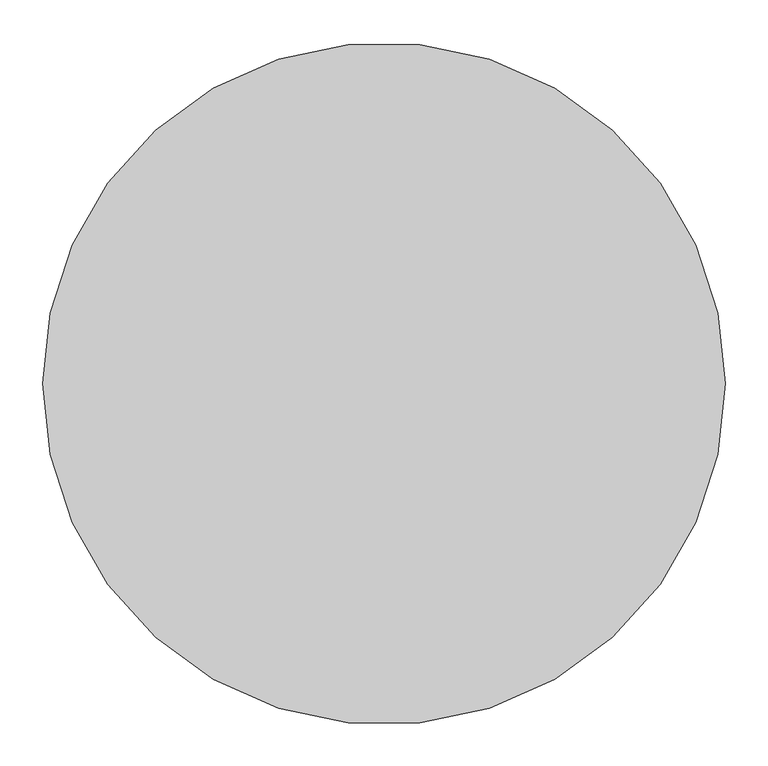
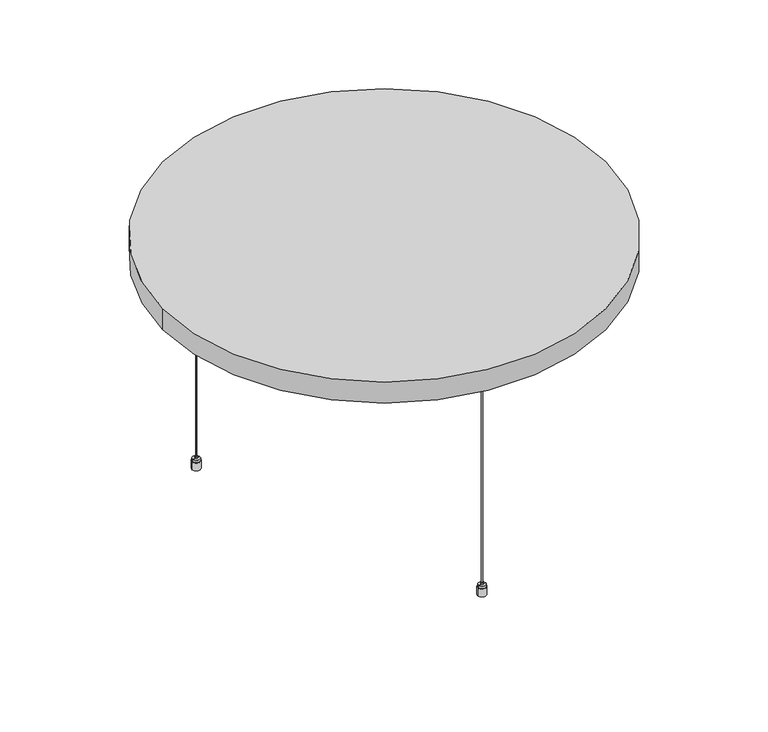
"""IFC4 building model written with IfcOpenShell, lengths in millimetres: proxy geometry, OWA Selecta : Selecta loop 800."""

import ifcopenshell
import ifcopenshell.guid

model = None  # the IFC model being written
_history = None  # IfcOwnerHistory: only IFC2X3 demands one
_inside = {}  # id of a spatial element -> (the spatial element, [elements in it])
_under = {}  # id of a project, library or spatial element -> (it, [spatial elements below it])
_declared = {}  # id of a project -> (the project, [libraries it declares])
_typed = {}  # id of a type object -> (the type object, [elements of that type])
_made_of = {}  # id of a material, layer set ... -> (it, [elements and type objects made of it])


def new_model(schema):
    """Start an empty IFC model of exactly this schema.

    Asked for "IFC4X3", IfcOpenShell would pick the latest addendum, in which some entities
    have other attributes; the version numbers below select the first issue.
    IFC2X3 requires an IfcOwnerHistory on every rooted entity: one is made here for all.
    """
    global model, _history
    if schema == "IFC4X3":
        model = ifcopenshell.file(schema_version=(4, 3, 0, 0))
    else:
        model = ifcopenshell.file(schema=schema)
    _inside.clear()
    _under.clear()
    _declared.clear()
    _typed.clear()
    _made_of.clear()
    _history = None
    if model.schema == "IFC2X3":
        org = make("IfcOrganization", Name="unknown")
        user = make(
            "IfcPersonAndOrganization",
            ThePerson=make("IfcPerson", FamilyName="unknown"),
            TheOrganization=org,
        )
        app = make(
            "IfcApplication",
            ApplicationDeveloper=org,
            Version="unknown",
            ApplicationFullName="unknown",
            ApplicationIdentifier="unknown",
        )
        _history = make(
            "IfcOwnerHistory",
            OwningUser=user,
            OwningApplication=app,
            ChangeAction="ADDED",
            CreationDate=0,
        )
    return model


def make(cls, **values):
    """One entity of the class cls with the attributes given. An attribute that is None is left unset."""
    return model.create_entity(
        cls, **{name: value for name, value in values.items() if value is not None}
    )


def rooted(cls, **values):
    """An entity with a GlobalId (a new one), such as an element, a storey or a relation."""
    return make(cls, GlobalId=ifcopenshell.guid.new(), OwnerHistory=_history, **values)


def si_unit(unit_type, name, prefix=None):
    """IfcSIUnit, for example si_unit("LENGTHUNIT", "METRE", prefix="MILLI")."""
    return make("IfcSIUnit", UnitType=unit_type, Prefix=prefix, Name=name)


def assignment(units):
    """IfcUnitAssignment: the units of a project."""
    return None if units is None else make("IfcUnitAssignment", Units=units)


def point(xyz):
    """IfcCartesianPoint."""
    return None if xyz is None else make("IfcCartesianPoint", Coordinates=xyz)


def direction(xyz):
    """IfcDirection."""
    return None if xyz is None else make("IfcDirection", DirectionRatios=xyz)


def frame(location, z_axis=None, x_axis=None):
    """IfcAxis2Placement3D, a coordinate frame: its origin and axes. An axis left out is left unset."""
    return make(
        "IfcAxis2Placement3D",
        Location=point(location),
        Axis=direction(z_axis),
        RefDirection=direction(x_axis),
    )


def frame_2d(location, x_axis=None):
    """IfcAxis2Placement2D, a coordinate frame in the plane: its origin and x axis."""
    return make(
        "IfcAxis2Placement2D", Location=point(location), RefDirection=direction(x_axis)
    )


def origin():
    """The frame at (0, 0, 0) with its axes left unset."""
    return frame((0.0, 0.0, 0.0))


def place(relative_to, where):
    """IfcLocalPlacement: puts the frame where relative to a parent placement (None: the world)."""
    return make(
        "IfcLocalPlacement", PlacementRelTo=relative_to, RelativePlacement=where
    )


def context(
    kind, dimensions, precision=None, world=None, true_north=None, identifier=None
):
    """IfcGeometricRepresentationContext, for example the 3D "Model" context."""
    return make(
        "IfcGeometricRepresentationContext",
        ContextIdentifier=identifier,
        ContextType=kind,
        CoordinateSpaceDimension=dimensions,
        Precision=precision,
        WorldCoordinateSystem=world,
        TrueNorth=true_north,
    )


def project(units=None, contexts=None):
    """IfcProject with its units and contexts."""
    return rooted(
        "IfcProject",
        Name="project",
        RepresentationContexts=contexts,
        UnitsInContext=assignment(units),
    )


def spatial(cls, under=None, at=None, **own):
    """A site, building, storey or space (cls), placed at a placement, below another one or the project."""
    s = rooted(cls, ObjectPlacement=at, **own)
    if under is not None:
        _under.setdefault(under.id(), (under, []))[1].append(s)
    return s


def polyline(points):
    """IfcPolyline through the points."""
    return make("IfcPolyline", Points=[point(p) for p in points])


def circle_curve(where, radius):
    """IfcCircle in the frame where."""
    return make("IfcCircle", Position=where, Radius=radius)


def trimmed(basis, trim1, trim2, sense, master):
    """IfcTrimmedCurve: the piece of a basis curve between two trims."""
    return make(
        "IfcTrimmedCurve",
        BasisCurve=basis,
        Trim1=trim1,
        Trim2=trim2,
        SenseAgreement=sense,
        MasterRepresentation=master,
    )


def segment(curve, same_sense, transition):
    """IfcCompositeCurveSegment."""
    return make(
        "IfcCompositeCurveSegment",
        Transition=transition,
        SameSense=same_sense,
        ParentCurve=curve,
    )


def composite_curve(segments, self_intersect=None):
    """IfcCompositeCurve: segments joined end to end."""
    return make("IfcCompositeCurve", Segments=segments, SelfIntersect=self_intersect)


def outline(outer, holes=None, kind="AREA"):
    """IfcArbitraryClosedProfileDef: a profile drawn as a closed curve; with holes, ...WithVoids."""
    if holes is None:
        return make("IfcArbitraryClosedProfileDef", ProfileType=kind, OuterCurve=outer)
    return make(
        "IfcArbitraryProfileDefWithVoids",
        ProfileType=kind,
        OuterCurve=outer,
        InnerCurves=holes,
    )


def extrude(swept, where, along, depth):
    """IfcExtrudedAreaSolid: the profile swept, set in the frame where, extruded along a direction by depth."""
    return make(
        "IfcExtrudedAreaSolid",
        SweptArea=swept,
        Position=where,
        ExtrudedDirection=direction(along),
        Depth=depth,
    )


def shape(context_of_items, identifier, shape_type, items):
    """IfcShapeRepresentation: the items that make up one representation, for example the "Body"."""
    return make(
        "IfcShapeRepresentation",
        ContextOfItems=context_of_items,
        RepresentationIdentifier=identifier,
        RepresentationType=shape_type,
        Items=items,
    )


def source(mapping_origin, context_of_items, identifier, shape_type, items):
    """IfcRepresentationMap: a shape defined once, which mapped items show again and again."""
    return make(
        "IfcRepresentationMap",
        MappingOrigin=mapping_origin,
        MappedRepresentation=shape(context_of_items, identifier, shape_type, items),
    )


def transform(
    local_origin,
    x_axis=None,
    y_axis=None,
    z_axis=None,
    scale=None,
    scale2=None,
    scale3=None,
    uniform=True,
):
    """IfcCartesianTransformationOperator3D, or its non-uniform kind. x_axis, y_axis, z_axis: its Axis1, 2, 3."""
    if uniform:
        return make(
            "IfcCartesianTransformationOperator3D",
            Axis1=direction(x_axis),
            Axis2=direction(y_axis),
            LocalOrigin=point(local_origin),
            Scale=scale,
            Axis3=direction(z_axis),
        )
    return make(
        "IfcCartesianTransformationOperator3DnonUniform",
        Axis1=direction(x_axis),
        Axis2=direction(y_axis),
        LocalOrigin=point(local_origin),
        Scale=scale,
        Axis3=direction(z_axis),
        Scale2=scale2,
        Scale3=scale3,
    )


def mapped(mapping_source, mapping_target):
    """IfcMappedItem: shows the shape of a source again, moved by a transform."""
    return make(
        "IfcMappedItem", MappingSource=mapping_source, MappingTarget=mapping_target
    )


def made_of(thing, what):
    """Note that an element or type object is made of a material, layer set ...; save() writes the relation."""
    if what is not None:
        _made_of.setdefault(what.id(), (what, []))[1].append(thing)
    return thing


def element(
    cls,
    number,
    at=None,
    inside=None,
    cuts=None,
    type_object=None,
    material=None,
    context=None,
    identifier="Body",
    shape_type=None,
    held_by="IfcProductDefinitionShape",
    body=None,
    shapes=None,
    **own,
):
    """One element of the class cls, such as IfcWall. Its Tag is "e" and its number.

    at: its placement. inside: the storey or other place that contains it. cuts: it is an
    opening in that element (IfcRelVoidsElement). A single representation is given by context,
    identifier, shape_type and body (its items); several are given by shapes. held_by: the class
    of the entity that holds the representations. save() writes the other relations.
    """
    e = rooted(cls, Tag="e%d" % number, ObjectPlacement=at, **own)
    if body is not None:
        shapes = [shape(context, identifier, shape_type, body)]
    if shapes is not None:
        e.Representation = make(held_by, Representations=shapes)
    if inside is not None:
        _inside.setdefault(inside.id(), (inside, []))[1].append(e)
    if cuts is not None:
        rooted(
            "IfcRelVoidsElement", RelatingBuildingElement=cuts, RelatedOpeningElement=e
        )
    if type_object is not None:
        _typed.setdefault(type_object.id(), (type_object, []))[1].append(e)
    return made_of(e, material)


def aggregate(whole, parts):
    """IfcRelAggregates: a whole, such as a stair, and the parts it consists of."""
    return rooted("IfcRelAggregates", RelatingObject=whole, RelatedObjects=parts)


def save(model, path):
    """Write the relations noted so far, then the file.

    IfcRelAggregates (storeys below a building ...), IfcRelContainedInSpatialStructure (elements
    in a storey), IfcRelDefinesByType, IfcRelAssociatesMaterial and IfcRelDeclares: one each for
    every whole, place, type object, material and project.
    """
    for whole, parts in _under.values():
        aggregate(whole, parts)
    for where, things in _inside.values():
        rooted(
            "IfcRelContainedInSpatialStructure",
            RelatedElements=things,
            RelatingStructure=where,
        )
    for kind, things in _typed.values():
        rooted("IfcRelDefinesByType", RelatedObjects=things, RelatingType=kind)
    for what, things in _made_of.values():
        rooted("IfcRelAssociatesMaterial", RelatedObjects=things, RelatingMaterial=what)
    for by, libraries in _declared.values():
        rooted("IfcRelDeclares", RelatingContext=by, RelatedDefinitions=libraries)
    model.write(path)


def plane_surface(at):
    """IfcPlane: the flat surface through the origin of the frame at, square to its z axis."""
    return make("IfcPlane", Position=at)


def cylinder_surface(at, radius):
    """IfcCylindricalSurface: all points at the distance radius from the z axis of the frame at."""
    return make("IfcCylindricalSurface", Position=at, Radius=radius)


def revolved_surface(curve, axis_point, axis_direction):
    """IfcSurfaceOfRevolution: the curve turned about the line through axis_point along axis_direction."""
    return make(
        "IfcSurfaceOfRevolution",
        SweptCurve=make("IfcArbitraryOpenProfileDef", ProfileType="CURVE", Curve=curve),
        AxisPosition=make("IfcAxis1Placement", Location=point(axis_point), Axis=direction(axis_direction)),
    )


def advanced_brep(points, edges, surfaces, faces):
    """IfcAdvancedBrep: a solid bounded by faces that lie on surfaces and meet in shared edges.

    An edge is (start, end): straight between two places in points (the first is 0);
    or (start, end, curve); or (start, end, curve, False) where it runs against its curve.
    A face is (place in surfaces, loops), or (place, loops, False) where it looks against
    its surface's normal. A loop lists edges by number (the first is 1), with a minus sign
    where the edge is run from its end to its start. The first loop is the outer one.
    """
    corners = [point(p) for p in points]
    vertices = [make("IfcVertexPoint", VertexGeometry=c) for c in corners]
    made = []
    for start, end, *more in edges:
        made.append(
            make(
                "IfcEdgeCurve",
                EdgeStart=vertices[start],
                EdgeEnd=vertices[end],
                EdgeGeometry=more[0] if more else make("IfcPolyline", Points=[corners[start], corners[end]]),
                SameSense=more[1] if len(more) > 1 else True,
            )
        )
    hull = []
    for where, loops, *sense in faces:
        bounds = []
        for j, loop in enumerate(loops):
            ring = [make("IfcOrientedEdge", EdgeElement=made[abs(k) - 1], Orientation=k > 0) for k in loop]
            bounds.append(
                make(
                    "IfcFaceOuterBound" if j == 0 else "IfcFaceBound",
                    Bound=make("IfcEdgeLoop", EdgeList=ring),
                    Orientation=True,
                )
            )
        hull.append(make("IfcAdvancedFace", Bounds=bounds, FaceSurface=surfaces[where], SameSense=sense[0] if sense else True))
    return make("IfcAdvancedBrep", Outer=make("IfcClosedShell", CfsFaces=hull))


def specialty_equipment_cb26eacc(model_context):
    return source(origin(), model_context, "Body", "SolidModel", [
        advanced_brep(
        [(-433.5, -305.0, 0.0), (-441.2406175, -305.0, 0.0), (-425.7593825, -305.0, 0.0), (-441.2406175, -305.0, 15.0), (-425.7593825, -305.0, 15.0), (-440.3156175, -305.0, 15.0), (-426.6843825, -305.0, 15.0), (-440.3156175, -305.0, 19.0), (-426.6843825, -305.0, 19.0), (-435.5656175, -305.0, 19.0), (-431.4343825, -305.0, 19.0), (-435.5656175, -305.0, 22.546183), (-431.4343825, -305.0, 22.546183), (-433.5, -305.0, 22.546183)],
        [
            (0, 1),
            (1, 2, circle_curve(frame((-433.5, -305.0, 0.0), z_axis=(0.0, 0.0, -1.0), x_axis=(-1.0, 0.0, 0.0)), 7.7406175)),
            (2, 0),
            (2, 1, circle_curve(frame((-433.5, -305.0, 0.0), z_axis=(0.0, 0.0, -1.0), x_axis=(-1.0, 0.0, 0.0)), 7.7406175)),
            (1, 3),
            (3, 4, circle_curve(frame((-433.5, -305.0, 15.0), z_axis=(0.0, 0.0, -1.0), x_axis=(-1.0, 0.0, 0.0)), 7.7406175)),
            (4, 2),
            (4, 3, circle_curve(frame((-433.5, -305.0, 15.0), z_axis=(0.0, 0.0, -1.0), x_axis=(-1.0, 0.0, 0.0)), 7.7406175)),
            (3, 5),
            (5, 6, circle_curve(frame((-433.5, -305.0, 15.0), z_axis=(0.0, 0.0, -1.0), x_axis=(-1.0, 0.0, 0.0)), 6.8156175)),
            (6, 4),
            (6, 5, circle_curve(frame((-433.5, -305.0, 15.0), z_axis=(0.0, 0.0, -1.0), x_axis=(-1.0, 0.0, 0.0)), 6.8156175)),
            (5, 7),
            (7, 8, circle_curve(frame((-433.5, -305.0, 19.0), z_axis=(0.0, 0.0, -1.0), x_axis=(-1.0, 0.0, 0.0)), 6.8156175)),
            (8, 6),
            (8, 7, circle_curve(frame((-433.5, -305.0, 19.0), z_axis=(0.0, 0.0, -1.0), x_axis=(-1.0, 0.0, 0.0)), 6.8156175)),
            (7, 9),
            (9, 10, circle_curve(frame((-433.5, -305.0, 19.0), z_axis=(0.0, 0.0, -1.0), x_axis=(-1.0, 0.0, 0.0)), 2.0656175)),
            (10, 8),
            (10, 9, circle_curve(frame((-433.5, -305.0, 19.0), z_axis=(0.0, 0.0, -1.0), x_axis=(-1.0, 0.0, 0.0)), 2.0656175)),
            (9, 11),
            (11, 12, circle_curve(frame((-433.5, -305.0, 22.546183), z_axis=(0.0, 0.0, -1.0), x_axis=(-1.0, 0.0, 0.0)), 2.0656175)),
            (12, 10),
            (12, 11, circle_curve(frame((-433.5, -305.0, 22.546183), z_axis=(0.0, 0.0, -1.0), x_axis=(-1.0, 0.0, 0.0)), 2.0656175)),
            (11, 13),
            (13, 12),
        ],
        [
            plane_surface(frame((-433.5, -305.0, 0.0), z_axis=(0.0, 0.0, -1.0), x_axis=(-1.0, 0.0, 0.0))),
            cylinder_surface(frame((-433.5, -305.0, -10.0), z_axis=(0.0, 0.0, -1.0), x_axis=(-1.0, 0.0, 0.0)), 7.7406175),
            plane_surface(frame((-433.5, -305.0, 15.0), z_axis=(0.0, 0.0, 1.0), x_axis=(-1.0, 0.0, 0.0))),
            cylinder_surface(frame((-433.5, -305.0, -10.0), z_axis=(0.0, 0.0, -1.0), x_axis=(-1.0, 0.0, 0.0)), 6.8156175),
            plane_surface(frame((-433.5, -305.0, 19.0), z_axis=(0.0, 0.0, 1.0), x_axis=(-1.0, 0.0, 0.0))),
            cylinder_surface(frame((-433.5, -305.0, -10.0), z_axis=(0.0, 0.0, -1.0), x_axis=(-1.0, 0.0, 0.0)), 2.0656175),
            plane_surface(frame((-433.5, -305.0, 22.546183), z_axis=(0.0, 0.0, 1.0), x_axis=(-1.0, 0.0, 0.0))),
        ],
        [
            (0, [[1, 2, 3]]),
            (0, [[-3, 4, -1]]),
            (1, [[-2, 5, 6, 7]]),
            (1, [[-4, -7, 8, -5]]),
            (2, [[-6, 9, 10, 11]]),
            (2, [[-8, -11, 12, -9]]),
            (3, [[-10, 13, 14, 15]]),
            (3, [[-12, -15, 16, -13]]),
            (4, [[-14, 17, 18, 19]]),
            (4, [[-16, -19, 20, -17]]),
            (5, [[-18, 21, 22, 23]]),
            (5, [[-20, -23, 24, -21]]),
            (6, [[-22, 25, 26]]),
            (6, [[-24, -26, -25]]),
        ],
    ),
        advanced_brep(
        [(-431.2615389, -305.0, 428.8211737), (-435.7384611, -305.0, 428.8211737), (-435.8660547, -305.0, 432.8711737), (-431.1339453, -305.0, 432.8711737), (-438.3660547, -305.0, 432.8711737), (-428.6339453, -305.0, 432.8711737), (-438.3660547, -305.0, 458.1211737), (-428.6339453, -305.0, 458.1211737), (-449.3660547, -305.0, 458.1211737), (-417.6339453, -305.0, 458.1211737), (-449.3660547, -305.0, 460.0), (-417.6339453, -305.0, 460.0), (-433.5, -305.0, 460.0), (-433.5, -305.0, 428.8211737)],
        [
            (0, 1, circle_curve(frame((-433.5, -305.0, 428.8211737), z_axis=(0.0, 0.0, 1.0), x_axis=(-1.0, 0.0, 0.0)), 2.2384611)),
            (1, 2),
            (2, 3, circle_curve(frame((-433.5, -305.0, 432.8711737), z_axis=(0.0, 0.0, -1.0), x_axis=(-1.0, 0.0, 0.0)), 2.3660547)),
            (3, 0),
            (1, 0, circle_curve(frame((-433.5, -305.0, 428.8211737), z_axis=(0.0, 0.0, 1.0), x_axis=(-1.0, 0.0, 0.0)), 2.2384611)),
            (3, 2, circle_curve(frame((-433.5, -305.0, 432.8711737), z_axis=(0.0, 0.0, -1.0), x_axis=(-1.0, 0.0, 0.0)), 2.3660547)),
            (2, 4),
            (4, 5, circle_curve(frame((-433.5, -305.0, 432.8711737), z_axis=(0.0, 0.0, -1.0), x_axis=(-1.0, 0.0, 0.0)), 4.8660547)),
            (5, 3),
            (5, 4, circle_curve(frame((-433.5, -305.0, 432.8711737), z_axis=(0.0, 0.0, -1.0), x_axis=(-1.0, 0.0, 0.0)), 4.8660547)),
            (4, 6),
            (6, 7, circle_curve(frame((-433.5, -305.0, 458.1211737), z_axis=(0.0, 0.0, -1.0), x_axis=(-1.0, 0.0, 0.0)), 4.8660547)),
            (7, 5),
            (7, 6, circle_curve(frame((-433.5, -305.0, 458.1211737), z_axis=(0.0, 0.0, -1.0), x_axis=(-1.0, 0.0, 0.0)), 4.8660547)),
            (6, 8),
            (8, 9, circle_curve(frame((-433.5, -305.0, 458.1211737), z_axis=(0.0, 0.0, -1.0), x_axis=(-1.0, 0.0, 0.0)), 15.8660547)),
            (9, 7),
            (9, 8, circle_curve(frame((-433.5, -305.0, 458.1211737), z_axis=(0.0, 0.0, -1.0), x_axis=(-1.0, 0.0, 0.0)), 15.8660547)),
            (8, 10),
            (10, 11, circle_curve(frame((-433.5, -305.0, 460.0), z_axis=(0.0, 0.0, -1.0), x_axis=(-1.0, 0.0, 0.0)), 15.8660547)),
            (11, 9),
            (11, 10, circle_curve(frame((-433.5, -305.0, 460.0), z_axis=(0.0, 0.0, -1.0), x_axis=(-1.0, 0.0, 0.0)), 15.8660547)),
            (10, 12),
            (12, 11),
            (13, 1),
            (0, 13),
        ],
        [
            revolved_surface(polyline([(-435.8660547, -305.0, 432.8711737), (-435.7384611, -305.0, 428.8211737)]), (-433.5, -305.0, 461.8401096), (0.0, 0.0, -1.0)),
            plane_surface(frame((-433.5, -305.0, 432.8711737), z_axis=(0.0, 0.0, -1.0), x_axis=(-1.0, 0.0, 0.0))),
            cylinder_surface(frame((-433.5, -305.0, 461.8401096), z_axis=(0.0, 0.0, -1.0), x_axis=(-1.0, 0.0, 0.0)), 4.8660547),
            plane_surface(frame((-433.5, -305.0, 458.1211737), z_axis=(0.0, 0.0, -1.0), x_axis=(-1.0, 0.0, 0.0))),
            cylinder_surface(frame((-433.5, -305.0, 461.8401096), z_axis=(0.0, 0.0, -1.0), x_axis=(-1.0, 0.0, 0.0)), 15.8660547),
            plane_surface(frame((-433.5, -305.0, 460.0), z_axis=(0.0, 0.0, 1.0), x_axis=(-1.0, 0.0, 0.0))),
            plane_surface(frame((-433.5, -305.0, 428.8211737), z_axis=(0.0, 0.0, -1.0), x_axis=(-1.0, 0.0, 0.0))),
        ],
        [
            (0, [[1, 2, 3, 4]]),
            (0, [[5, -4, 6, -2]]),
            (1, [[-3, 7, 8, 9]]),
            (1, [[-6, -9, 10, -7]]),
            (2, [[-8, 11, 12, 13]]),
            (2, [[-10, -13, 14, -11]]),
            (3, [[-12, 15, 16, 17]]),
            (3, [[-14, -17, 18, -15]]),
            (4, [[-16, 19, 20, 21]]),
            (4, [[-18, -21, 22, -19]]),
            (5, [[-20, 23, 24]]),
            (5, [[-22, -24, -23]]),
            (6, [[25, -1, 26]]),
            (6, [[-26, -5, -25]]),
        ],
    ),
        extrude(outline(composite_curve([segment(trimmed(circle_curve(frame_2d((-433.5, -305.0)), 1.0), [point((-434.5, -305.0))], [point((-432.5, -305.0))], False, "CARTESIAN"), True, "CONTINUOUS"), segment(trimmed(circle_curve(frame_2d((-433.5, -305.0)), 1.0), [point((-432.5, -305.0))], [point((-434.5, -305.0))], False, "CARTESIAN"), True, "CONTINUOUS")], self_intersect=False)), frame((0.0, 0.0, 22.546183), z_axis=(0.0, 0.0, 1.0), x_axis=(1.0, 0.0, 0.0)), (0.0, 0.0, 1.0), 406.2749908),
        advanced_brep(
        [(-648.5, 216.0, 0.0), (-640.7593825, 216.0, 0.0), (-656.2406175, 216.0, 0.0), (-640.7593825, 216.0, 15.0), (-656.2406175, 216.0, 15.0), (-641.6843825, 216.0, 15.0), (-655.3156175, 216.0, 15.0), (-641.6843825, 216.0, 19.0), (-655.3156175, 216.0, 19.0), (-646.4343825, 216.0, 19.0), (-650.5656175, 216.0, 19.0), (-646.4343825, 216.0, 22.546183), (-650.5656175, 216.0, 22.546183), (-648.5, 216.0, 22.546183)],
        [
            (0, 1),
            (1, 2, circle_curve(frame((-648.5, 216.0, 0.0), z_axis=(0.0, 0.0, -1.0), x_axis=(-1.0, 0.0, 0.0)), 7.7406175)),
            (2, 0),
            (2, 1, circle_curve(frame((-648.5, 216.0, 0.0), z_axis=(0.0, 0.0, -1.0), x_axis=(-1.0, 0.0, 0.0)), 7.7406175)),
            (1, 3),
            (3, 4, circle_curve(frame((-648.5, 216.0, 15.0), z_axis=(0.0, 0.0, -1.0), x_axis=(-1.0, 0.0, 0.0)), 7.7406175)),
            (4, 2),
            (4, 3, circle_curve(frame((-648.5, 216.0, 15.0), z_axis=(0.0, 0.0, -1.0), x_axis=(-1.0, 0.0, 0.0)), 7.7406175)),
            (3, 5),
            (5, 6, circle_curve(frame((-648.5, 216.0, 15.0), z_axis=(0.0, 0.0, -1.0), x_axis=(-1.0, 0.0, 0.0)), 6.8156175)),
            (6, 4),
            (6, 5, circle_curve(frame((-648.5, 216.0, 15.0), z_axis=(0.0, 0.0, -1.0), x_axis=(-1.0, 0.0, 0.0)), 6.8156175)),
            (5, 7),
            (7, 8, circle_curve(frame((-648.5, 216.0, 19.0), z_axis=(0.0, 0.0, -1.0), x_axis=(-1.0, 0.0, 0.0)), 6.8156175)),
            (8, 6),
            (8, 7, circle_curve(frame((-648.5, 216.0, 19.0), z_axis=(0.0, 0.0, -1.0), x_axis=(-1.0, 0.0, 0.0)), 6.8156175)),
            (7, 9),
            (9, 10, circle_curve(frame((-648.5, 216.0, 19.0), z_axis=(0.0, 0.0, -1.0), x_axis=(-1.0, 0.0, 0.0)), 2.0656175)),
            (10, 8),
            (10, 9, circle_curve(frame((-648.5, 216.0, 19.0), z_axis=(0.0, 0.0, -1.0), x_axis=(-1.0, 0.0, 0.0)), 2.0656175)),
            (9, 11),
            (11, 12, circle_curve(frame((-648.5, 216.0, 22.546183), z_axis=(0.0, 0.0, -1.0), x_axis=(-1.0, 0.0, 0.0)), 2.0656175)),
            (12, 10),
            (12, 11, circle_curve(frame((-648.5, 216.0, 22.546183), z_axis=(0.0, 0.0, -1.0), x_axis=(-1.0, 0.0, 0.0)), 2.0656175)),
            (11, 13),
            (13, 12),
        ],
        [
            plane_surface(frame((-648.5, 216.0, 0.0), z_axis=(0.0, 0.0, -1.0), x_axis=(-1.0, 0.0, 0.0))),
            cylinder_surface(frame((-648.5, 216.0, -10.0), z_axis=(0.0, 0.0, -1.0), x_axis=(-1.0, 0.0, 0.0)), 7.7406175),
            plane_surface(frame((-648.5, 216.0, 15.0), z_axis=(0.0, 0.0, 1.0), x_axis=(-1.0, 0.0, 0.0))),
            cylinder_surface(frame((-648.5, 216.0, -10.0), z_axis=(0.0, 0.0, -1.0), x_axis=(-1.0, 0.0, 0.0)), 6.8156175),
            plane_surface(frame((-648.5, 216.0, 19.0), z_axis=(0.0, 0.0, 1.0), x_axis=(-1.0, 0.0, 0.0))),
            cylinder_surface(frame((-648.5, 216.0, -10.0), z_axis=(0.0, 0.0, -1.0), x_axis=(-1.0, 0.0, 0.0)), 2.0656175),
            plane_surface(frame((-648.5, 216.0, 22.546183), z_axis=(0.0, 0.0, 1.0), x_axis=(-1.0, 0.0, 0.0))),
        ],
        [
            (0, [[1, 2, 3]]),
            (0, [[-3, 4, -1]]),
            (1, [[5, 6, 7, -2]]),
            (1, [[-7, 8, -5, -4]]),
            (2, [[9, 10, 11, -6]]),
            (2, [[-11, 12, -9, -8]]),
            (3, [[13, 14, 15, -10]]),
            (3, [[-15, 16, -13, -12]]),
            (4, [[17, 18, 19, -14]]),
            (4, [[-19, 20, -17, -16]]),
            (5, [[21, 22, 23, -18]]),
            (5, [[-23, 24, -21, -20]]),
            (6, [[25, 26, -22]]),
            (6, [[-26, -25, -24]]),
        ],
    ),
        advanced_brep(
        [(-646.2615389, 216.0, 428.8211737), (-646.1339453, 216.0, 432.8711737), (-650.8660547, 216.0, 432.8711737), (-650.7384611, 216.0, 428.8211737), (-643.6339453, 216.0, 432.8711737), (-653.3660547, 216.0, 432.8711737), (-643.6339453, 216.0, 458.1211737), (-653.3660547, 216.0, 458.1211737), (-632.6339453, 216.0, 458.1211737), (-664.3660547, 216.0, 458.1211737), (-632.6339453, 216.0, 460.0), (-664.3660547, 216.0, 460.0), (-648.5, 216.0, 460.0), (-648.5, 216.0, 428.8211737)],
        [
            (0, 1),
            (1, 2, circle_curve(frame((-648.5, 216.0, 432.8711737), z_axis=(0.0, 0.0, -1.0), x_axis=(-1.0, 0.0, 0.0)), 2.3660547)),
            (2, 3),
            (3, 0, circle_curve(frame((-648.5, 216.0, 428.8211737), z_axis=(0.0, 0.0, 1.0), x_axis=(-1.0, 0.0, 0.0)), 2.2384611)),
            (2, 1, circle_curve(frame((-648.5, 216.0, 432.8711737), z_axis=(0.0, 0.0, -1.0), x_axis=(-1.0, 0.0, 0.0)), 2.3660547)),
            (0, 3, circle_curve(frame((-648.5, 216.0, 428.8211737), z_axis=(0.0, 0.0, 1.0), x_axis=(-1.0, 0.0, 0.0)), 2.2384611)),
            (1, 4),
            (4, 5, circle_curve(frame((-648.5, 216.0, 432.8711737), z_axis=(0.0, 0.0, -1.0), x_axis=(-1.0, 0.0, 0.0)), 4.8660547)),
            (5, 2),
            (5, 4, circle_curve(frame((-648.5, 216.0, 432.8711737), z_axis=(0.0, 0.0, -1.0), x_axis=(-1.0, 0.0, 0.0)), 4.8660547)),
            (4, 6),
            (6, 7, circle_curve(frame((-648.5, 216.0, 458.1211737), z_axis=(0.0, 0.0, -1.0), x_axis=(-1.0, 0.0, 0.0)), 4.8660547)),
            (7, 5),
            (7, 6, circle_curve(frame((-648.5, 216.0, 458.1211737), z_axis=(0.0, 0.0, -1.0), x_axis=(-1.0, 0.0, 0.0)), 4.8660547)),
            (6, 8),
            (8, 9, circle_curve(frame((-648.5, 216.0, 458.1211737), z_axis=(0.0, 0.0, -1.0), x_axis=(-1.0, 0.0, 0.0)), 15.8660547)),
            (9, 7),
            (9, 8, circle_curve(frame((-648.5, 216.0, 458.1211737), z_axis=(0.0, 0.0, -1.0), x_axis=(-1.0, 0.0, 0.0)), 15.8660547)),
            (8, 10),
            (10, 11, circle_curve(frame((-648.5, 216.0, 460.0), z_axis=(0.0, 0.0, -1.0), x_axis=(-1.0, 0.0, 0.0)), 15.8660547)),
            (11, 9),
            (11, 10, circle_curve(frame((-648.5, 216.0, 460.0), z_axis=(0.0, 0.0, -1.0), x_axis=(-1.0, 0.0, 0.0)), 15.8660547)),
            (10, 12),
            (12, 11),
            (13, 0),
            (3, 13),
        ],
        [
            revolved_surface(polyline([(-650.8660547, 216.0, 432.8711737), (-650.7384611, 216.0, 428.8211737)]), (-648.5, 216.0, 461.8401096), (0.0, 0.0, -1.0)),
            plane_surface(frame((-648.5, 216.0, 432.8711737), z_axis=(0.0, 0.0, -1.0), x_axis=(-1.0, 0.0, 0.0))),
            cylinder_surface(frame((-648.5, 216.0, 461.8401096), z_axis=(0.0, 0.0, -1.0), x_axis=(-1.0, 0.0, 0.0)), 4.8660547),
            plane_surface(frame((-648.5, 216.0, 458.1211737), z_axis=(0.0, 0.0, -1.0), x_axis=(-1.0, 0.0, 0.0))),
            cylinder_surface(frame((-648.5, 216.0, 461.8401096), z_axis=(0.0, 0.0, -1.0), x_axis=(-1.0, 0.0, 0.0)), 15.8660547),
            plane_surface(frame((-648.5, 216.0, 460.0), z_axis=(0.0, 0.0, 1.0), x_axis=(-1.0, 0.0, 0.0))),
            plane_surface(frame((-648.5, 216.0, 428.8211737), z_axis=(0.0, 0.0, -1.0), x_axis=(-1.0, 0.0, 0.0))),
        ],
        [
            (0, [[1, 2, 3, 4]]),
            (0, [[-3, 5, -1, 6]]),
            (1, [[7, 8, 9, -2]]),
            (1, [[-9, 10, -7, -5]]),
            (2, [[11, 12, 13, -8]]),
            (2, [[-13, 14, -11, -10]]),
            (3, [[15, 16, 17, -12]]),
            (3, [[-17, 18, -15, -14]]),
            (4, [[19, 20, 21, -16]]),
            (4, [[-21, 22, -19, -18]]),
            (5, [[23, 24, -20]]),
            (5, [[-24, -23, -22]]),
            (6, [[25, -4, 26]]),
            (6, [[-26, -6, -25]]),
        ],
    ),
        extrude(outline(composite_curve([segment(trimmed(circle_curve(frame_2d((-648.5, 216.0)), 1.0), [point((-649.5, 216.0))], [point((-647.5, 216.0))], False, "CARTESIAN"), True, "CONTINUOUS"), segment(trimmed(circle_curve(frame_2d((-648.5, 216.0)), 1.0), [point((-647.5, 216.0))], [point((-649.5, 216.0))], False, "CARTESIAN"), True, "CONTINUOUS")], self_intersect=False)), frame((0.0, 0.0, 22.546183), z_axis=(0.0, 0.0, 1.0), x_axis=(1.0, 0.0, 0.0)), (0.0, 0.0, 1.0), 406.2749908),
        advanced_brep(
        [(-218.5, 216.0, 0.0), (-226.2406175, 216.0, 0.0), (-210.7593825, 216.0, 0.0), (-226.2406175, 216.0, 15.0), (-210.7593825, 216.0, 15.0), (-225.3156175, 216.0, 15.0), (-211.6843825, 216.0, 15.0), (-225.3156175, 216.0, 19.0), (-211.6843825, 216.0, 19.0), (-220.5656175, 216.0, 19.0), (-216.4343825, 216.0, 19.0), (-220.5656175, 216.0, 22.546183), (-216.4343825, 216.0, 22.546183), (-218.5, 216.0, 22.546183)],
        [
            (0, 1),
            (1, 2, circle_curve(frame((-218.5, 216.0, 0.0), z_axis=(0.0, 0.0, -1.0), x_axis=(-1.0, 0.0, 0.0)), 7.7406175)),
            (2, 0),
            (2, 1, circle_curve(frame((-218.5, 216.0, 0.0), z_axis=(0.0, 0.0, -1.0), x_axis=(-1.0, 0.0, 0.0)), 7.7406175)),
            (1, 3),
            (3, 4, circle_curve(frame((-218.5, 216.0, 15.0), z_axis=(0.0, 0.0, -1.0), x_axis=(-1.0, 0.0, 0.0)), 7.7406175)),
            (4, 2),
            (4, 3, circle_curve(frame((-218.5, 216.0, 15.0), z_axis=(0.0, 0.0, -1.0), x_axis=(-1.0, 0.0, 0.0)), 7.7406175)),
            (3, 5),
            (5, 6, circle_curve(frame((-218.5, 216.0, 15.0), z_axis=(0.0, 0.0, -1.0), x_axis=(-1.0, 0.0, 0.0)), 6.8156175)),
            (6, 4),
            (6, 5, circle_curve(frame((-218.5, 216.0, 15.0), z_axis=(0.0, 0.0, -1.0), x_axis=(-1.0, 0.0, 0.0)), 6.8156175)),
            (5, 7),
            (7, 8, circle_curve(frame((-218.5, 216.0, 19.0), z_axis=(0.0, 0.0, -1.0), x_axis=(-1.0, 0.0, 0.0)), 6.8156175)),
            (8, 6),
            (8, 7, circle_curve(frame((-218.5, 216.0, 19.0), z_axis=(0.0, 0.0, -1.0), x_axis=(-1.0, 0.0, 0.0)), 6.8156175)),
            (7, 9),
            (9, 10, circle_curve(frame((-218.5, 216.0, 19.0), z_axis=(0.0, 0.0, -1.0), x_axis=(-1.0, 0.0, 0.0)), 2.0656175)),
            (10, 8),
            (10, 9, circle_curve(frame((-218.5, 216.0, 19.0), z_axis=(0.0, 0.0, -1.0), x_axis=(-1.0, 0.0, 0.0)), 2.0656175)),
            (9, 11),
            (11, 12, circle_curve(frame((-218.5, 216.0, 22.546183), z_axis=(0.0, 0.0, -1.0), x_axis=(-1.0, 0.0, 0.0)), 2.0656175)),
            (12, 10),
            (12, 11, circle_curve(frame((-218.5, 216.0, 22.546183), z_axis=(0.0, 0.0, -1.0), x_axis=(-1.0, 0.0, 0.0)), 2.0656175)),
            (11, 13),
            (13, 12),
        ],
        [
            plane_surface(frame((-218.5, 216.0, 0.0), z_axis=(0.0, 0.0, -1.0), x_axis=(-1.0, 0.0, 0.0))),
            cylinder_surface(frame((-218.5, 216.0, -10.0), z_axis=(0.0, 0.0, -1.0), x_axis=(-1.0, 0.0, 0.0)), 7.7406175),
            plane_surface(frame((-218.5, 216.0, 15.0), z_axis=(0.0, 0.0, 1.0), x_axis=(-1.0, 0.0, 0.0))),
            cylinder_surface(frame((-218.5, 216.0, -10.0), z_axis=(0.0, 0.0, -1.0), x_axis=(-1.0, 0.0, 0.0)), 6.8156175),
            plane_surface(frame((-218.5, 216.0, 19.0), z_axis=(0.0, 0.0, 1.0), x_axis=(-1.0, 0.0, 0.0))),
            cylinder_surface(frame((-218.5, 216.0, -10.0), z_axis=(0.0, 0.0, -1.0), x_axis=(-1.0, 0.0, 0.0)), 2.0656175),
            plane_surface(frame((-218.5, 216.0, 22.546183), z_axis=(0.0, 0.0, 1.0), x_axis=(-1.0, 0.0, 0.0))),
        ],
        [
            (0, [[1, 2, 3]]),
            (0, [[-3, 4, -1]]),
            (1, [[-2, 5, 6, 7]]),
            (1, [[-4, -7, 8, -5]]),
            (2, [[-6, 9, 10, 11]]),
            (2, [[-8, -11, 12, -9]]),
            (3, [[-10, 13, 14, 15]]),
            (3, [[-12, -15, 16, -13]]),
            (4, [[-14, 17, 18, 19]]),
            (4, [[-16, -19, 20, -17]]),
            (5, [[-18, 21, 22, 23]]),
            (5, [[-20, -23, 24, -21]]),
            (6, [[-22, 25, 26]]),
            (6, [[-24, -26, -25]]),
        ],
    ),
        advanced_brep(
        [(-216.2615389, 216.0, 428.8211737), (-220.7384611, 216.0, 428.8211737), (-220.8660547, 216.0, 432.8711737), (-216.1339453, 216.0, 432.8711737), (-223.3660547, 216.0, 432.8711737), (-213.6339453, 216.0, 432.8711737), (-223.3660547, 216.0, 458.1211737), (-213.6339453, 216.0, 458.1211737), (-234.3660547, 216.0, 458.1211737), (-202.6339453, 216.0, 458.1211737), (-234.3660547, 216.0, 460.0), (-202.6339453, 216.0, 460.0), (-218.5, 216.0, 460.0), (-218.5, 216.0, 428.8211737)],
        [
            (0, 1, circle_curve(frame((-218.5, 216.0, 428.8211737), z_axis=(0.0, 0.0, 1.0), x_axis=(-1.0, 0.0, 0.0)), 2.2384611)),
            (1, 2),
            (2, 3, circle_curve(frame((-218.5, 216.0, 432.8711737), z_axis=(0.0, 0.0, -1.0), x_axis=(-1.0, 0.0, 0.0)), 2.3660547)),
            (3, 0),
            (1, 0, circle_curve(frame((-218.5, 216.0, 428.8211737), z_axis=(0.0, 0.0, 1.0), x_axis=(-1.0, 0.0, 0.0)), 2.2384611)),
            (3, 2, circle_curve(frame((-218.5, 216.0, 432.8711737), z_axis=(0.0, 0.0, -1.0), x_axis=(-1.0, 0.0, 0.0)), 2.3660547)),
            (2, 4),
            (4, 5, circle_curve(frame((-218.5, 216.0, 432.8711737), z_axis=(0.0, 0.0, -1.0), x_axis=(-1.0, 0.0, 0.0)), 4.8660547)),
            (5, 3),
            (5, 4, circle_curve(frame((-218.5, 216.0, 432.8711737), z_axis=(0.0, 0.0, -1.0), x_axis=(-1.0, 0.0, 0.0)), 4.8660547)),
            (4, 6),
            (6, 7, circle_curve(frame((-218.5, 216.0, 458.1211737), z_axis=(0.0, 0.0, -1.0), x_axis=(-1.0, 0.0, 0.0)), 4.8660547)),
            (7, 5),
            (7, 6, circle_curve(frame((-218.5, 216.0, 458.1211737), z_axis=(0.0, 0.0, -1.0), x_axis=(-1.0, 0.0, 0.0)), 4.8660547)),
            (6, 8),
            (8, 9, circle_curve(frame((-218.5, 216.0, 458.1211737), z_axis=(0.0, 0.0, -1.0), x_axis=(-1.0, 0.0, 0.0)), 15.8660547)),
            (9, 7),
            (9, 8, circle_curve(frame((-218.5, 216.0, 458.1211737), z_axis=(0.0, 0.0, -1.0), x_axis=(-1.0, 0.0, 0.0)), 15.8660547)),
            (8, 10),
            (10, 11, circle_curve(frame((-218.5, 216.0, 460.0), z_axis=(0.0, 0.0, -1.0), x_axis=(-1.0, 0.0, 0.0)), 15.8660547)),
            (11, 9),
            (11, 10, circle_curve(frame((-218.5, 216.0, 460.0), z_axis=(0.0, 0.0, -1.0), x_axis=(-1.0, 0.0, 0.0)), 15.8660547)),
            (10, 12),
            (12, 11),
            (13, 1),
            (0, 13),
        ],
        [
            revolved_surface(polyline([(-220.8660547, 216.0, 432.8711737), (-220.7384611, 216.0, 428.8211737)]), (-218.5, 216.0, 461.8401096), (0.0, 0.0, -1.0)),
            plane_surface(frame((-218.5, 216.0, 432.8711737), z_axis=(0.0, 0.0, -1.0), x_axis=(-1.0, 0.0, 0.0))),
            cylinder_surface(frame((-218.5, 216.0, 461.8401096), z_axis=(0.0, 0.0, -1.0), x_axis=(-1.0, 0.0, 0.0)), 4.8660547),
            plane_surface(frame((-218.5, 216.0, 458.1211737), z_axis=(0.0, 0.0, -1.0), x_axis=(-1.0, 0.0, 0.0))),
            cylinder_surface(frame((-218.5, 216.0, 461.8401096), z_axis=(0.0, 0.0, -1.0), x_axis=(-1.0, 0.0, 0.0)), 15.8660547),
            plane_surface(frame((-218.5, 216.0, 460.0), z_axis=(0.0, 0.0, 1.0), x_axis=(-1.0, 0.0, 0.0))),
            plane_surface(frame((-218.5, 216.0, 428.8211737), z_axis=(0.0, 0.0, -1.0), x_axis=(-1.0, 0.0, 0.0))),
        ],
        [
            (0, [[1, 2, 3, 4]]),
            (0, [[5, -4, 6, -2]]),
            (1, [[-3, 7, 8, 9]]),
            (1, [[-6, -9, 10, -7]]),
            (2, [[-8, 11, 12, 13]]),
            (2, [[-10, -13, 14, -11]]),
            (3, [[-12, 15, 16, 17]]),
            (3, [[-14, -17, 18, -15]]),
            (4, [[-16, 19, 20, 21]]),
            (4, [[-18, -21, 22, -19]]),
            (5, [[-20, 23, 24]]),
            (5, [[-22, -24, -23]]),
            (6, [[25, -1, 26]]),
            (6, [[-26, -5, -25]]),
        ],
    ),
        extrude(outline(composite_curve([segment(trimmed(circle_curve(frame_2d((-218.5, 216.0)), 1.0), [point((-219.5, 216.0))], [point((-217.5, 216.0))], False, "CARTESIAN"), True, "CONTINUOUS"), segment(trimmed(circle_curve(frame_2d((-218.5, 216.0)), 1.0), [point((-217.5, 216.0))], [point((-219.5, 216.0))], False, "CARTESIAN"), True, "CONTINUOUS")], self_intersect=False)), frame((0.0, 0.0, 22.546183), z_axis=(0.0, 0.0, 1.0), x_axis=(1.0, 0.0, 0.0)), (0.0, 0.0, 1.0), 406.2749908),
        extrude(outline(composite_curve([segment(trimmed(circle_curve(frame_2d((-433.5, 0.0)), 400.0), [point((-833.5, 0.0))], [point((-33.5, 0.0))], False, "CARTESIAN"), True, "CONTINUOUS"), segment(trimmed(circle_curve(frame_2d((-433.5, 0.0)), 400.0), [point((-33.5, 0.0))], [point((-833.5, 0.0))], False, "CARTESIAN"), True, "CONTINUOUS")], self_intersect=False)), frame((0.0, 0.0, 460.0), z_axis=(0.0, 0.0, 1.0), x_axis=(1.0, 0.0, 0.0)), (0.0, 0.0, 1.0), 40.0),
    ])


if __name__ == "__main__":
    model = new_model("IFC4")
    model_context = context("Model", 3, world=origin())
    ifc_project = project(units=[si_unit("LENGTHUNIT", "METRE", prefix="MILLI")], contexts=[model_context])
    site = spatial("IfcSite", under=ifc_project)
    building = spatial("IfcBuilding", under=site)
    placement = place(None, origin())
    specialty_equipment_shape = specialty_equipment_cb26eacc(model_context)
    element("IfcBuildingElementProxy", 1, Name="OWA Selecta : Selecta loop 800", ObjectType="OWA Selecta : Selecta loop 800", at=placement, inside=building, context=model_context, shape_type="MappedRepresentation", body=[
        mapped(specialty_equipment_shape, transform((0.0, 0.0, 0.0), x_axis=(1.0, 0.0, 0.0), y_axis=(0.0, 1.0, 0.0), z_axis=(0.0, 0.0, 1.0))),
    ])
    save(model, "model.ifc")
